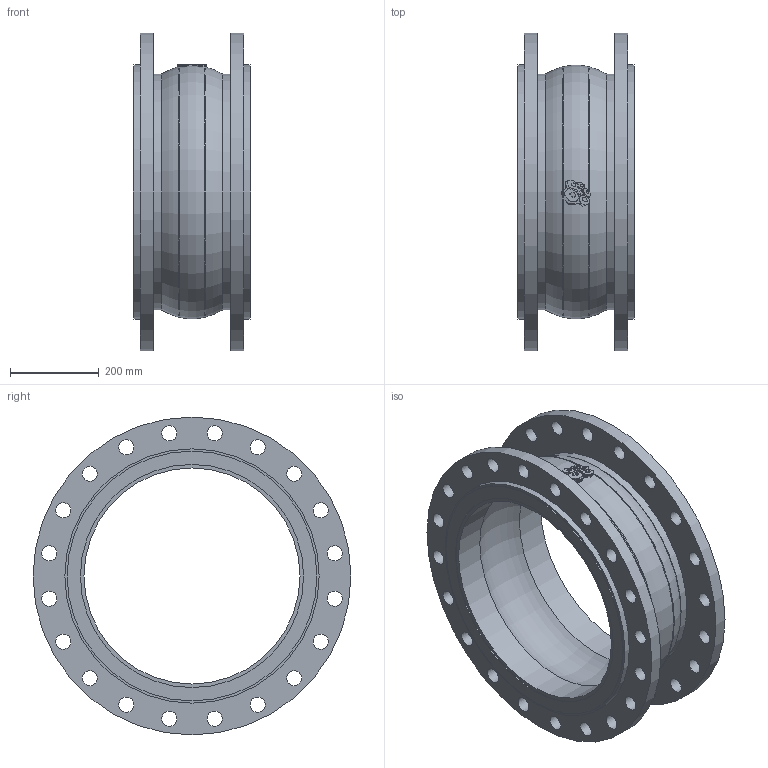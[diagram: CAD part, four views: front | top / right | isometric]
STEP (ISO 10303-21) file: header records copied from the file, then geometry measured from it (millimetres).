
FILE_DESCRIPTION(('STEP AP203'), '1');
FILE_NAME('3D_501-500-EPDM-FF', '', ('UNSPECIFIED'), ('UNSPECIFIED'), 'C3D Converter', 'C3D Toolkit', '');
FILE_SCHEMA(('CONFIG_CONTROL_DESIGN'));
Length unit declared in the file: millimetre
Bounding box: 265 x 715 x 715 mm (x, y, z)
Volume: 20379357.7 mm3; surface area: 1797886.5 mm2
Topology: 9 solids, 9 shells, 901 faces, 2643 edges, 1768 vertices
Faces by surface type: plane 839, cylinder 52, torus 10
Full cylindrical faces by diameter (mm): 34 x40, 486 x2, 502 x2, 530 x2, 562 x2, 572 x2, 715 x2
Entity records: 36612 total; most frequent: CARTESIAN_POINT 5251, ORIENTED_EDGE 5162, DIRECTION 4527, EDGE_CURVE 2581, LINE 2439, VECTOR 2439, VERTEX_POINT 1768, EDGE_LOOP 1065
